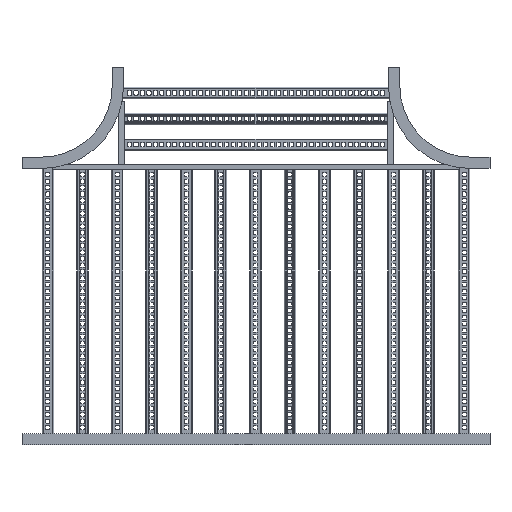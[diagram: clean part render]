
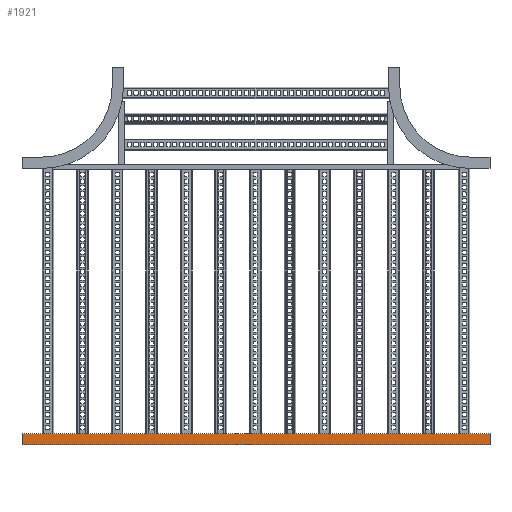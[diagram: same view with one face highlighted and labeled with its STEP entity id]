
A CAD part, front view. The second image highlights one B-rep face of the part: STEP entity #1921.
In plain terms, the highlighted planar face has unit normal (0, -1, 0) as drawn and (-1, 0, 0) by its records, which use the part's own axes.
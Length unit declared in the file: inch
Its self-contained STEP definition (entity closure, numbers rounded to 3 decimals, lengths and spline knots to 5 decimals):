
#1457=DIRECTION('',(0.,-1.,0.));
#1458=VECTOR('',#1457,1.75);
#1459=CARTESIAN_POINT('',(0.,0.64,-36.075));
#1460=LINE('',#1459,#1458);
#1461=DIRECTION('',(0.,0.,1.));
#1462=VECTOR('',#1461,72.15);
#1463=CARTESIAN_POINT('',(0.,-1.11,-36.075));
#1464=LINE('',#1463,#1462);
#1465=DIRECTION('',(0.,0.,1.));
#1466=VECTOR('',#1465,72.15);
#1467=CARTESIAN_POINT('',(0.,0.64,-36.075));
#1468=LINE('',#1467,#1466);
#1641=DIRECTION('',(0.,-1.,0.));
#1642=VECTOR('',#1641,1.75);
#1643=CARTESIAN_POINT('',(0.,0.64,36.075));
#1644=LINE('',#1643,#1642);
#1749=CARTESIAN_POINT('',(0.,-1.11,-36.075));
#1751=VERTEX_POINT('',#1749);
#1771=CARTESIAN_POINT('',(0.,0.64,-36.075));
#1772=VERTEX_POINT('',#1771);
#1773=CARTESIAN_POINT('',(0.,-1.11,36.075));
#1774=VERTEX_POINT('',#1773);
#1795=CARTESIAN_POINT('',(0.,0.64,36.075));
#1796=VERTEX_POINT('',#1795);
#1908=CARTESIAN_POINT('',(0.,0.64,-36.075));
#1909=DIRECTION('',(-1.,0.,0.));
#1910=DIRECTION('',(0.,-1.,0.));
#1911=AXIS2_PLACEMENT_3D('',#1908,#1909,#1910);
#1912=PLANE('',#1911);
#1913=ORIENTED_EDGE('',*,*,#1888,.F.);
#1915=ORIENTED_EDGE('',*,*,#1914,.T.);
#1917=ORIENTED_EDGE('',*,*,#1916,.T.);
#1918=ORIENTED_EDGE('',*,*,#1899,.F.);
#1919=EDGE_LOOP('',(#1913,#1915,#1917,#1918));
#1920=FACE_OUTER_BOUND('',#1919,.F.);
#1921=ADVANCED_FACE('',(#1920),#1912,.T.);
#1888=EDGE_CURVE('',#1772,#1751,#1460,.T.);
#1899=EDGE_CURVE('',#1751,#1774,#1464,.T.);
#1914=EDGE_CURVE('',#1772,#1796,#1468,.T.);
#1916=EDGE_CURVE('',#1796,#1774,#1644,.T.);
